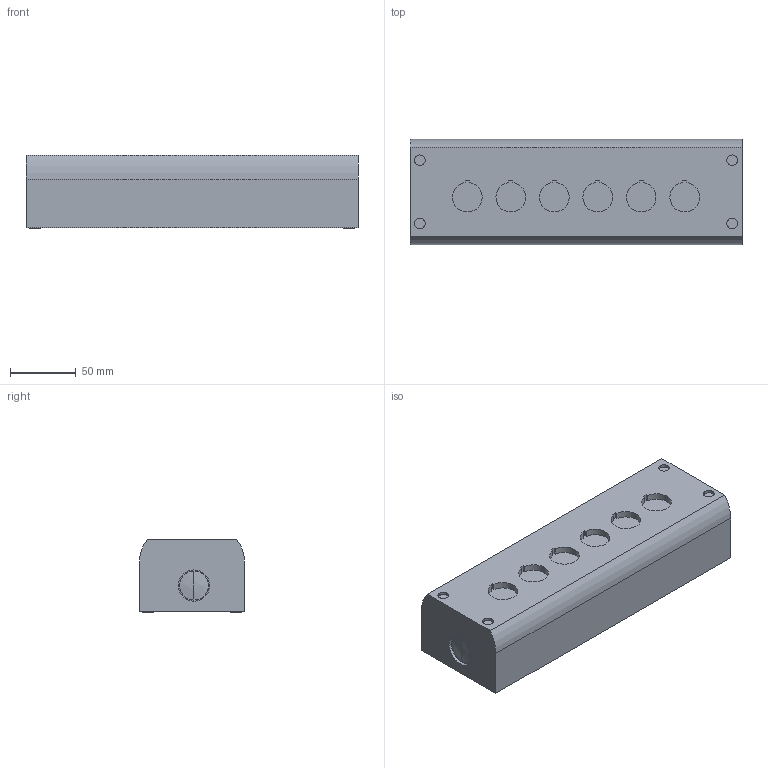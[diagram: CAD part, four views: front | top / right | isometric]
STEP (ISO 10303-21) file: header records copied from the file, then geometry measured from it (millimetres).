
FILE_DESCRIPTION( ( '' ), '1' );
FILE_NAME( '//expscmdclustefs.cadenas.external/client_exchange/iodir/jobs/output/wkb45969387_no0/STEP/216540_2_03.stp', '2012-06-14T13:58:47', ( '' ), ( '' ), ' ', ' ', ' ' );
FILE_SCHEMA( ( 'CONFIG_CONTROL_DESIGN' ) );
Length unit declared in the file: millimetre
Products named in the file (1): 1
Bounding box: 252 x 80 x 56 mm (x, y, z)
Volume: 1080857.6 mm3; surface area: 77754.9 mm2
Topology: 1 solids, 1 shells, 96 faces, 216 edges, 144 vertices
Faces by surface type: plane 44, cylinder 42, sphere 10
Entity records: 2748 total; most frequent: DIRECTION 510, CARTESIAN_POINT 453, ORIENTED_EDGE 424, EDGE_CURVE 212, AXIS2_PLACEMENT_3D 201, VERTEX_POINT 144, EDGE_LOOP 122, LINE 108
